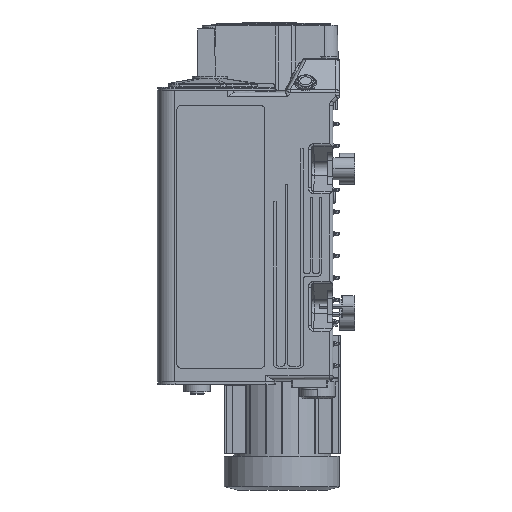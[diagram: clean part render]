
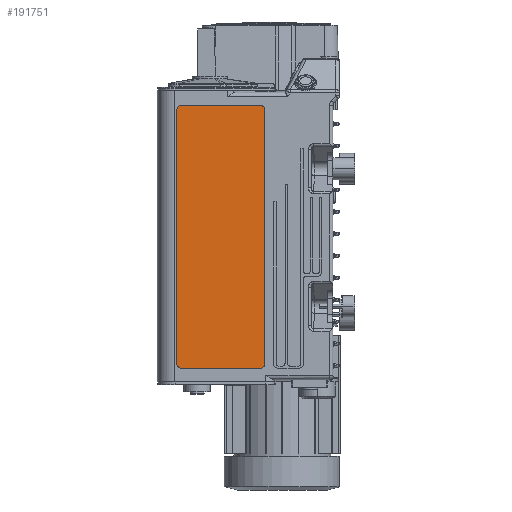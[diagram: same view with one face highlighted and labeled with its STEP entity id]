
A CAD part, left-side view. The second image highlights one B-rep face of the part: STEP entity #191751.
In plain terms, the highlighted planar face has unit normal (-1, 0, 0).
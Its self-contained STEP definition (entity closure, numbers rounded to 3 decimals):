
#179624=CARTESIAN_POINT('',(-265.162,360.995,-598.));
#179625=DIRECTION('',(-1.,0.,0.));
#179626=DIRECTION('',(0.,1.,0.));
#179627=AXIS2_PLACEMENT_3D('',#179624,#179625,#179626);
#179629=DIRECTION('',(0.,0.,-1.));
#179630=VECTOR('',#179629,576.);
#179631=CARTESIAN_POINT('',(-265.162,372.995,-22.));
#179632=LINE('',#179631,#179630);
#179633=CARTESIAN_POINT('',(-265.162,360.995,-22.));
#179634=DIRECTION('',(-1.,0.,0.));
#179635=DIRECTION('',(0.,0.,1.));
#179636=AXIS2_PLACEMENT_3D('',#179633,#179634,#179635);
#179638=DIRECTION('',(0.,1.,0.));
#179639=VECTOR('',#179638,176.);
#179640=CARTESIAN_POINT('',(-265.162,184.995,-10.));
#179641=LINE('',#179640,#179639);
#179642=CARTESIAN_POINT('',(-265.162,184.995,-22.));
#179643=DIRECTION('',(-1.,0.,0.));
#179644=DIRECTION('',(0.,-1.,0.));
#179645=AXIS2_PLACEMENT_3D('',#179642,#179643,#179644);
#179647=DIRECTION('',(0.,0.,1.));
#179648=VECTOR('',#179647,576.);
#179649=CARTESIAN_POINT('',(-265.162,172.995,-598.));
#179650=LINE('',#179649,#179648);
#179651=CARTESIAN_POINT('',(-265.162,184.995,-598.));
#179652=DIRECTION('',(-1.,0.,0.));
#179653=DIRECTION('',(0.,0.,-1.));
#179654=AXIS2_PLACEMENT_3D('',#179651,#179652,#179653);
#179656=DIRECTION('',(0.,-1.,0.));
#179657=VECTOR('',#179656,176.);
#179658=CARTESIAN_POINT('',(-265.162,360.995,-610.));
#179659=LINE('',#179658,#179657);
#186704=CARTESIAN_POINT('',(-265.162,372.995,-598.));
#186705=VERTEX_POINT('',#186704);
#186706=CARTESIAN_POINT('',(-265.162,360.995,-610.));
#186707=VERTEX_POINT('',#186706);
#186708=CARTESIAN_POINT('',(-265.162,184.995,-610.));
#186709=VERTEX_POINT('',#186708);
#186710=CARTESIAN_POINT('',(-265.162,172.995,-598.));
#186711=VERTEX_POINT('',#186710);
#186732=CARTESIAN_POINT('',(-265.162,172.995,-22.));
#186734=VERTEX_POINT('',#186732);
#186736=CARTESIAN_POINT('',(-265.162,184.995,-10.));
#186737=VERTEX_POINT('',#186736);
#186740=CARTESIAN_POINT('',(-265.162,360.995,-10.));
#186742=VERTEX_POINT('',#186740);
#186744=CARTESIAN_POINT('',(-265.162,372.995,-22.));
#186745=VERTEX_POINT('',#186744);
#191728=CARTESIAN_POINT('',(-265.162,267.995,22.));
#191729=DIRECTION('',(-1.,0.,0.));
#191730=DIRECTION('',(0.,0.,1.));
#191731=AXIS2_PLACEMENT_3D('',#191728,#191729,#191730);
#191732=PLANE('',#191731);
#191734=ORIENTED_EDGE('',*,*,#191733,.F.);
#191736=ORIENTED_EDGE('',*,*,#191735,.F.);
#191738=ORIENTED_EDGE('',*,*,#191737,.F.);
#191740=ORIENTED_EDGE('',*,*,#191739,.F.);
#191742=ORIENTED_EDGE('',*,*,#191741,.F.);
#191744=ORIENTED_EDGE('',*,*,#191743,.F.);
#191746=ORIENTED_EDGE('',*,*,#191745,.F.);
#191748=ORIENTED_EDGE('',*,*,#191747,.F.);
#191749=EDGE_LOOP('',(#191734,#191736,#191738,#191740,#191742,#191744,#191746,
#191748));
#191750=FACE_OUTER_BOUND('',#191749,.F.);
#191751=ADVANCED_FACE('',(#191750),#191732,.T.);
#179628=CIRCLE('',#179627,12.);
#179637=CIRCLE('',#179636,12.);
#179646=CIRCLE('',#179645,12.);
#179655=CIRCLE('',#179654,12.);
#191733=EDGE_CURVE('',#186705,#186707,#179628,.T.);
#191735=EDGE_CURVE('',#186745,#186705,#179632,.T.);
#191737=EDGE_CURVE('',#186742,#186745,#179637,.T.);
#191739=EDGE_CURVE('',#186737,#186742,#179641,.T.);
#191741=EDGE_CURVE('',#186734,#186737,#179646,.T.);
#191743=EDGE_CURVE('',#186711,#186734,#179650,.T.);
#191745=EDGE_CURVE('',#186709,#186711,#179655,.T.);
#191747=EDGE_CURVE('',#186707,#186709,#179659,.T.);
